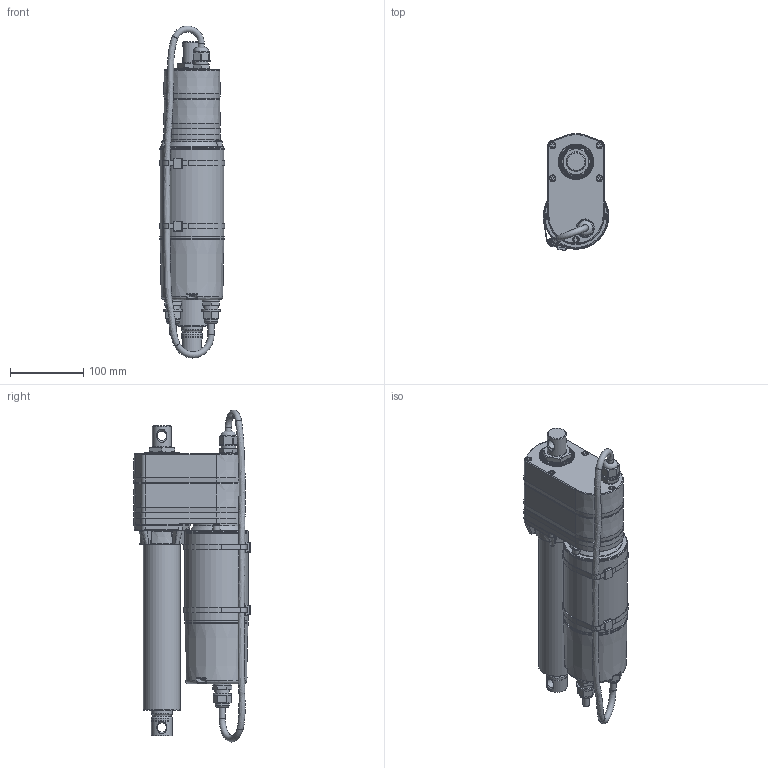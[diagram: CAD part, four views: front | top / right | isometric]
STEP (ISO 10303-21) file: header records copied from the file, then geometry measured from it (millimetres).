
FILE_DESCRIPTION (( 'STEP AP203' ), '1' );
FILE_NAME ('IA5-BALL+LT-102.STEP', '2019-02-27T09:11:04', ( '' ), ( '' ), 'SwSTEP 2.0', 'SolidWorks 2015', '' );
FILE_SCHEMA (( 'CONFIG_CONTROL_DESIGN' ));
Length unit declared in the file: millimetre
Products named in the file (3): IA05-B-1; IA05-B-2; IA5-BALL+LT-102
Assembly tree (2 placements, depth 2):
  IA5-BALL+LT-102
    IA05-B-1
    IA05-B-2
Bounding box: 89.57 x 159.59 x 454.06 mm (x, y, z)
Volume: 3036431.1 mm3; surface area: 281246 mm2
Topology: 3 solids, 3 shells, 1179 faces, 2994 edges, 1857 vertices
Faces by surface type: plane 696, cylinder 208, bspline 108, torus 103, cone 58, sphere 6
Full cylindrical faces by diameter (mm): 7 x3, 8.5 x8, 9 x5, 13 x2, 19 x2, 20 x3, 22 x1, 24 x2, 25 x3, 26 x1, 28 x1, 28.1 x1, 28.6 x4, 28.62 x1, 48.2 x1, 50.8 x2, 63.5 x1, 87 x3, 88 x3
Entity records: 39152 total; most frequent: CARTESIAN_POINT 13222, ORIENTED_EDGE 5758, DIRECTION 4900, EDGE_CURVE 2879, AXIS2_PLACEMENT_3D 1842, VERTEX_POINT 1831, EDGE_LOOP 1314, FACE_OUTER_BOUND 1247
